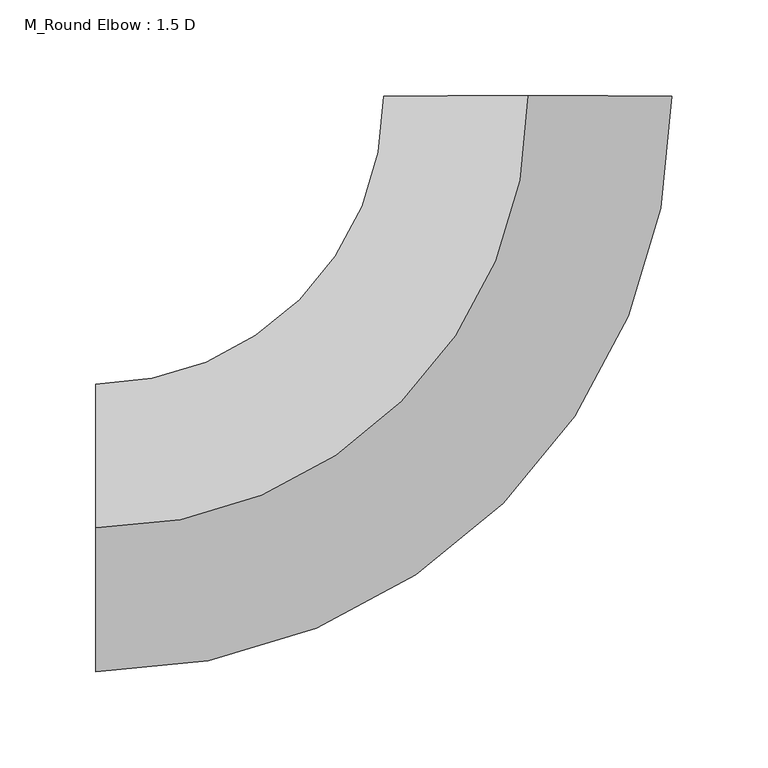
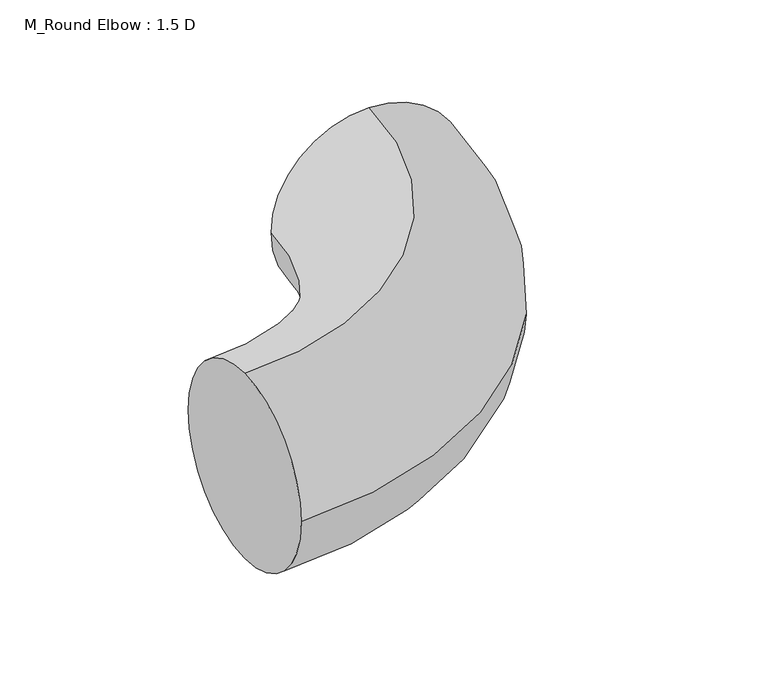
"""IFC4 building model written with IfcOpenShell, lengths in millimetres: duct fitting geometry, M_Round Elbow : 1.5 D."""

from ifc_helpers import new_model, si_unit, point, frame, origin, place, context, project, spatial, circle_curve, ellipse_curve, trimmed, source, transform, mapped, element, save
from ifc_brep_helpers import plane_surface, revolved_surface, advanced_brep


def m_round_elbow_1_5_d_9f19952d(model_context):
    return source(origin(), model_context, "Body", "AdvancedBrep", [
        advanced_brep(
        [(-225.0012219, 0.0, 75.0), (-225.0012219, 75.0, 0.0), (-225.0012219, 0.0, -75.0), (-225.0012219, -75.0, 0.0), (-0.0012219, 225.0012219, 75.0), (74.9987781, 225.0016291, 0.0), (-0.0012219, 225.0012219, -75.0), (-75.0012219, 225.0008146, 0.0)],
        [
            (0, 1, circle_curve(frame((-225.0012219, 0.0, 0.0), z_axis=(-1.0, 0.0, 0.0), x_axis=(0.0, 1.0, 0.0)), 75.0)),
            (1, 2, circle_curve(frame((-225.0012219, 0.0, 0.0), z_axis=(-1.0, 0.0, 0.0), x_axis=(0.0, 1.0, 0.0)), 75.0)),
            (2, 3, circle_curve(frame((-225.0012219, 0.0, 0.0), z_axis=(-1.0, 0.0, 0.0), x_axis=(0.0, 1.0, 0.0)), 75.0)),
            (3, 0, circle_curve(frame((-225.0012219, 0.0, 0.0), z_axis=(-1.0, 0.0, 0.0), x_axis=(0.0, 1.0, 0.0)), 75.0)),
            (4, 5, circle_curve(frame((-0.0012219, 225.0012219, 0.0), z_axis=(-5.430480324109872e-06, 0.9999999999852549, 0.0), x_axis=(-0.9999999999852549, -5.430480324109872e-06, 0.0)), 75.0)),
            (5, 6, circle_curve(frame((-0.0012219, 225.0012219, 0.0), z_axis=(-5.430480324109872e-06, 0.9999999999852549, 0.0), x_axis=(-0.9999999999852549, -5.430480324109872e-06, 0.0)), 75.0)),
            (6, 7, circle_curve(frame((-0.0012219, 225.0012219, 0.0), z_axis=(-5.430480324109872e-06, 0.9999999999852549, 0.0), x_axis=(-0.9999999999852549, -5.430480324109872e-06, 0.0)), 75.0)),
            (7, 4, circle_curve(frame((-0.0012219, 225.0012219, 0.0), z_axis=(-5.430480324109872e-06, 0.9999999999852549, 0.0), x_axis=(-0.9999999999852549, -5.430480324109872e-06, 0.0)), 75.0)),
            (7, 1, circle_curve(frame((-225.0012219, 225.0, 0.0), z_axis=(0.0, 0.0, -1.0), x_axis=(0.0, -1.0, 0.0)), 150.0)),
            (0, 4, circle_curve(frame((-225.0012219, 225.0, 75.0), z_axis=(0.0, 0.0, 1.0), x_axis=(0.0, -1.0, 0.0)), 225.0)),
            (6, 2, circle_curve(frame((-225.0012219, 225.0, -75.0), z_axis=(0.0, 0.0, -1.0), x_axis=(0.0, -1.0, 0.0)), 225.0)),
            (5, 3, circle_curve(frame((-225.0012219, 225.0, 0.0), z_axis=(0.0, 0.0, -1.0), x_axis=(0.0, -1.0, 0.0)), 300.0)),
        ],
        [
            plane_surface(frame((-225.0012219, 0.0, 0.0), z_axis=(-1.0, 0.0, 0.0), x_axis=(0.0, 0.0, 1.0))),
            plane_surface(frame((-0.0012219, 225.0012219, 0.0), z_axis=(-5.430480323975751e-06, 0.999999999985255, 0.0), x_axis=(0.0, 0.0, 1.0))),
            revolved_surface(trimmed(ellipse_curve(frame((-225.0012219, 0.0, 0.0), z_axis=(-1.0, 0.0, 0.0), x_axis=(0.0, 1.0, 0.0)), 75.0, 75.0), [point((-225.0012219, 0.0, 75.0))], [point((-225.0012219, 75.0, 0.0))], True, "CARTESIAN"), (-225.0012219, 225.0, 0.0), (0.0, 0.0, 1.0)),
            revolved_surface(trimmed(ellipse_curve(frame((-225.0012219, 0.0, 0.0), z_axis=(-1.0, 0.0, 0.0), x_axis=(0.0, 1.0, 0.0)), 75.0, 75.0), [point((-225.0012219, 75.0, 0.0))], [point((-225.0012219, 0.0, -75.0))], True, "CARTESIAN"), (-225.0012219, 225.0, 0.0), (0.0, 0.0, 1.0)),
            revolved_surface(trimmed(ellipse_curve(frame((-225.0012219, 0.0, 0.0), z_axis=(-1.0, 0.0, 0.0), x_axis=(0.0, 1.0, 0.0)), 75.0, 75.0), [point((-225.0012219, 0.0, -75.0))], [point((-225.0012219, -75.0, 0.0))], True, "CARTESIAN"), (-225.0012219, 225.0, 0.0), (0.0, 0.0, 1.0)),
            revolved_surface(trimmed(ellipse_curve(frame((-225.0012219, 0.0, 0.0), z_axis=(-1.0, 0.0, 0.0), x_axis=(0.0, 1.0, 0.0)), 75.0, 75.0), [point((-225.0012219, -75.0, 0.0))], [point((-225.0012219, 0.0, 75.0))], True, "CARTESIAN"), (-225.0012219, 225.0, 0.0), (0.0, 0.0, 1.0)),
        ],
        [
            (0, [[1, 2, 3, 4]]),
            (1, [[5, 6, 7, 8]]),
            (2, [[9, -1, 10, -8]]),
            (3, [[11, -2, -9, -7]]),
            (4, [[12, -3, -11, -6]]),
            (5, [[-10, -4, -12, -5]]),
        ],
    ),
        advanced_brep(
        [(-225.0012219, 0.0, 75.0), (-225.0012219, 75.0, 0.0), (-225.0012219, 0.0, -75.0), (-225.0012219, -75.0, 0.0), (-0.0012219, 225.0012219, 75.0), (74.9987781, 225.0016291, 0.0), (-0.0012219, 225.0012219, -75.0), (-75.0012219, 225.0008146, 0.0)],
        [
            (0, 1, circle_curve(frame((-225.0012219, 0.0, 0.0), z_axis=(-1.0, 0.0, 0.0), x_axis=(0.0, 1.0, 0.0)), 75.0)),
            (1, 2, circle_curve(frame((-225.0012219, 0.0, 0.0), z_axis=(-1.0, 0.0, 0.0), x_axis=(0.0, 1.0, 0.0)), 75.0)),
            (2, 3, circle_curve(frame((-225.0012219, 0.0, 0.0), z_axis=(-1.0, 0.0, 0.0), x_axis=(0.0, 1.0, 0.0)), 75.0)),
            (3, 0, circle_curve(frame((-225.0012219, 0.0, 0.0), z_axis=(-1.0, 0.0, 0.0), x_axis=(0.0, 1.0, 0.0)), 75.0)),
            (4, 5, circle_curve(frame((-0.0012219, 225.0012219, 0.0), z_axis=(-5.430480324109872e-06, 0.9999999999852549, 0.0), x_axis=(-0.9999999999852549, -5.430480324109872e-06, 0.0)), 75.0)),
            (5, 6, circle_curve(frame((-0.0012219, 225.0012219, 0.0), z_axis=(-5.430480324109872e-06, 0.9999999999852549, 0.0), x_axis=(-0.9999999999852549, -5.430480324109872e-06, 0.0)), 75.0)),
            (6, 7, circle_curve(frame((-0.0012219, 225.0012219, 0.0), z_axis=(-5.430480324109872e-06, 0.9999999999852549, 0.0), x_axis=(-0.9999999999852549, -5.430480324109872e-06, 0.0)), 75.0)),
            (7, 4, circle_curve(frame((-0.0012219, 225.0012219, 0.0), z_axis=(-5.430480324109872e-06, 0.9999999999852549, 0.0), x_axis=(-0.9999999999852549, -5.430480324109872e-06, 0.0)), 75.0)),
            (7, 1, circle_curve(frame((-225.0012219, 225.0, 0.0), z_axis=(0.0, 0.0, -1.0), x_axis=(0.0, -1.0, 0.0)), 150.0)),
            (0, 4, circle_curve(frame((-225.0012219, 225.0, 75.0), z_axis=(0.0, 0.0, 1.0), x_axis=(0.0, -1.0, 0.0)), 225.0)),
            (6, 2, circle_curve(frame((-225.0012219, 225.0, -75.0), z_axis=(0.0, 0.0, -1.0), x_axis=(0.0, -1.0, 0.0)), 225.0)),
            (5, 3, circle_curve(frame((-225.0012219, 225.0, 0.0), z_axis=(0.0, 0.0, -1.0), x_axis=(0.0, -1.0, 0.0)), 300.0)),
        ],
        [
            plane_surface(frame((-225.0012219, 0.0, 0.0), z_axis=(-1.0, 0.0, 0.0), x_axis=(0.0, 0.0, 1.0))),
            plane_surface(frame((-0.0012219, 225.0012219, 0.0), z_axis=(-5.430480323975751e-06, 0.999999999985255, 0.0), x_axis=(0.0, 0.0, 1.0))),
            revolved_surface(trimmed(ellipse_curve(frame((-225.0012219, 0.0, 0.0), z_axis=(-1.0, 0.0, 0.0), x_axis=(0.0, 1.0, 0.0)), 75.0, 75.0), [point((-225.0012219, 0.0, 75.0))], [point((-225.0012219, 75.0, 0.0))], True, "CARTESIAN"), (-225.0012219, 225.0, 0.0), (0.0, 0.0, 1.0)),
            revolved_surface(trimmed(ellipse_curve(frame((-225.0012219, 0.0, 0.0), z_axis=(-1.0, 0.0, 0.0), x_axis=(0.0, 1.0, 0.0)), 75.0, 75.0), [point((-225.0012219, 75.0, 0.0))], [point((-225.0012219, 0.0, -75.0))], True, "CARTESIAN"), (-225.0012219, 225.0, 0.0), (0.0, 0.0, 1.0)),
            revolved_surface(trimmed(ellipse_curve(frame((-225.0012219, 0.0, 0.0), z_axis=(-1.0, 0.0, 0.0), x_axis=(0.0, 1.0, 0.0)), 75.0, 75.0), [point((-225.0012219, 0.0, -75.0))], [point((-225.0012219, -75.0, 0.0))], True, "CARTESIAN"), (-225.0012219, 225.0, 0.0), (0.0, 0.0, 1.0)),
            revolved_surface(trimmed(ellipse_curve(frame((-225.0012219, 0.0, 0.0), z_axis=(-1.0, 0.0, 0.0), x_axis=(0.0, 1.0, 0.0)), 75.0, 75.0), [point((-225.0012219, -75.0, 0.0))], [point((-225.0012219, 0.0, 75.0))], True, "CARTESIAN"), (-225.0012219, 225.0, 0.0), (0.0, 0.0, 1.0)),
        ],
        [
            (0, [[1, 2, 3, 4]]),
            (1, [[5, 6, 7, 8]]),
            (2, [[9, -1, 10, -8]]),
            (3, [[11, -2, -9, -7]]),
            (4, [[12, -3, -11, -6]]),
            (5, [[-10, -4, -12, -5]]),
        ],
    ),
        advanced_brep(
        [(-225.0012219, 0.0, 75.0), (-225.0012219, 75.0, 0.0), (-225.0012219, 0.0, -75.0), (-225.0012219, -75.0, 0.0), (-0.0012219, 225.0012219, 75.0), (74.9987781, 225.0016291, 0.0), (-0.0012219, 225.0012219, -75.0), (-75.0012219, 225.0008146, 0.0)],
        [
            (0, 1, circle_curve(frame((-225.0012219, 0.0, 0.0), z_axis=(-1.0, 0.0, 0.0), x_axis=(0.0, 1.0, 0.0)), 75.0)),
            (1, 2, circle_curve(frame((-225.0012219, 0.0, 0.0), z_axis=(-1.0, 0.0, 0.0), x_axis=(0.0, 1.0, 0.0)), 75.0)),
            (2, 3, circle_curve(frame((-225.0012219, 0.0, 0.0), z_axis=(-1.0, 0.0, 0.0), x_axis=(0.0, 1.0, 0.0)), 75.0)),
            (3, 0, circle_curve(frame((-225.0012219, 0.0, 0.0), z_axis=(-1.0, 0.0, 0.0), x_axis=(0.0, 1.0, 0.0)), 75.0)),
            (4, 5, circle_curve(frame((-0.0012219, 225.0012219, 0.0), z_axis=(-5.430480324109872e-06, 0.9999999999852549, 0.0), x_axis=(-0.9999999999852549, -5.430480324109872e-06, 0.0)), 75.0)),
            (5, 6, circle_curve(frame((-0.0012219, 225.0012219, 0.0), z_axis=(-5.430480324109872e-06, 0.9999999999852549, 0.0), x_axis=(-0.9999999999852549, -5.430480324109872e-06, 0.0)), 75.0)),
            (6, 7, circle_curve(frame((-0.0012219, 225.0012219, 0.0), z_axis=(-5.430480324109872e-06, 0.9999999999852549, 0.0), x_axis=(-0.9999999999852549, -5.430480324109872e-06, 0.0)), 75.0)),
            (7, 4, circle_curve(frame((-0.0012219, 225.0012219, 0.0), z_axis=(-5.430480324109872e-06, 0.9999999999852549, 0.0), x_axis=(-0.9999999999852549, -5.430480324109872e-06, 0.0)), 75.0)),
            (7, 1, circle_curve(frame((-225.0012219, 225.0, 0.0), z_axis=(0.0, 0.0, -1.0), x_axis=(0.0, -1.0, 0.0)), 150.0)),
            (0, 4, circle_curve(frame((-225.0012219, 225.0, 75.0), z_axis=(0.0, 0.0, 1.0), x_axis=(0.0, -1.0, 0.0)), 225.0)),
            (6, 2, circle_curve(frame((-225.0012219, 225.0, -75.0), z_axis=(0.0, 0.0, -1.0), x_axis=(0.0, -1.0, 0.0)), 225.0)),
            (5, 3, circle_curve(frame((-225.0012219, 225.0, 0.0), z_axis=(0.0, 0.0, -1.0), x_axis=(0.0, -1.0, 0.0)), 300.0)),
        ],
        [
            plane_surface(frame((-225.0012219, 0.0, 0.0), z_axis=(-1.0, 0.0, 0.0), x_axis=(0.0, 0.0, 1.0))),
            plane_surface(frame((-0.0012219, 225.0012219, 0.0), z_axis=(-5.430480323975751e-06, 0.999999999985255, 0.0), x_axis=(0.0, 0.0, 1.0))),
            revolved_surface(trimmed(ellipse_curve(frame((-225.0012219, 0.0, 0.0), z_axis=(-1.0, 0.0, 0.0), x_axis=(0.0, 1.0, 0.0)), 75.0, 75.0), [point((-225.0012219, 0.0, 75.0))], [point((-225.0012219, 75.0, 0.0))], True, "CARTESIAN"), (-225.0012219, 225.0, 0.0), (0.0, 0.0, 1.0)),
            revolved_surface(trimmed(ellipse_curve(frame((-225.0012219, 0.0, 0.0), z_axis=(-1.0, 0.0, 0.0), x_axis=(0.0, 1.0, 0.0)), 75.0, 75.0), [point((-225.0012219, 75.0, 0.0))], [point((-225.0012219, 0.0, -75.0))], True, "CARTESIAN"), (-225.0012219, 225.0, 0.0), (0.0, 0.0, 1.0)),
            revolved_surface(trimmed(ellipse_curve(frame((-225.0012219, 0.0, 0.0), z_axis=(-1.0, 0.0, 0.0), x_axis=(0.0, 1.0, 0.0)), 75.0, 75.0), [point((-225.0012219, 0.0, -75.0))], [point((-225.0012219, -75.0, 0.0))], True, "CARTESIAN"), (-225.0012219, 225.0, 0.0), (0.0, 0.0, 1.0)),
            revolved_surface(trimmed(ellipse_curve(frame((-225.0012219, 0.0, 0.0), z_axis=(-1.0, 0.0, 0.0), x_axis=(0.0, 1.0, 0.0)), 75.0, 75.0), [point((-225.0012219, -75.0, 0.0))], [point((-225.0012219, 0.0, 75.0))], True, "CARTESIAN"), (-225.0012219, 225.0, 0.0), (0.0, 0.0, 1.0)),
        ],
        [
            (0, [[1, 2, 3, 4]]),
            (1, [[5, 6, 7, 8]]),
            (2, [[9, -1, 10, -8]]),
            (3, [[11, -2, -9, -7]]),
            (4, [[12, -3, -11, -6]]),
            (5, [[-10, -4, -12, -5]]),
        ],
    ),
    ])


if __name__ == "__main__":
    model = new_model("IFC4")
    model_context = context("Model", 3, world=origin())
    ifc_project = project(units=[si_unit("LENGTHUNIT", "METRE", prefix="MILLI")], contexts=[model_context])
    site = spatial("IfcSite", under=ifc_project)
    building = spatial("IfcBuilding", under=site)
    placement = place(None, origin())
    m_round_elbow_1_5_d_shape = m_round_elbow_1_5_d_9f19952d(model_context)
    element("IfcDuctFitting", 1, ObjectType="M_Round Elbow : 1.5 D", at=placement, inside=building, context=model_context, shape_type="MappedRepresentation", body=[
        mapped(m_round_elbow_1_5_d_shape, transform((0.0, 0.0, 0.0), x_axis=(1.0, 0.0, 0.0), y_axis=(0.0, 1.0, 0.0), z_axis=(0.0, 0.0, 1.0))),
    ])
    save(model, "model.ifc")
